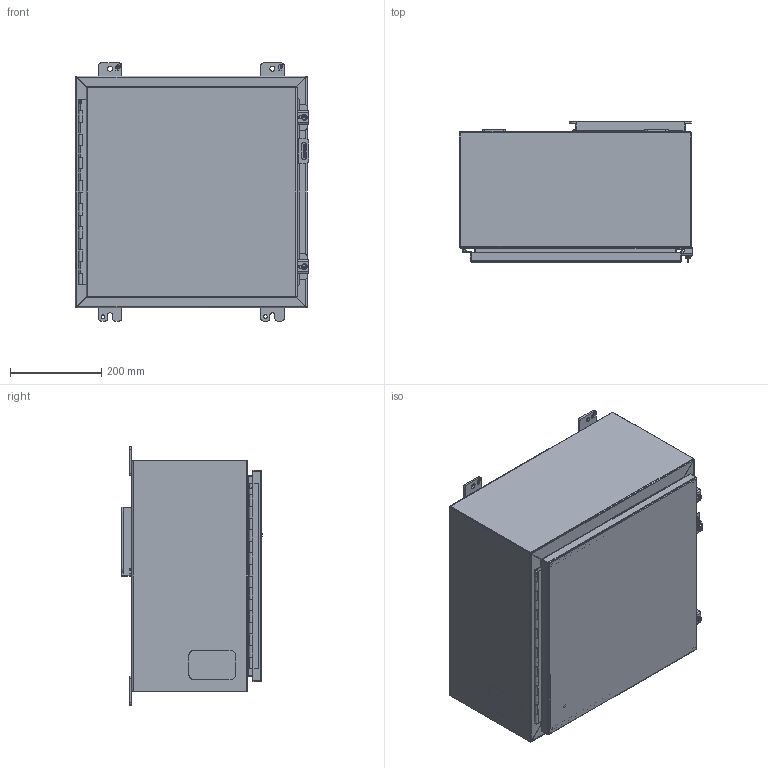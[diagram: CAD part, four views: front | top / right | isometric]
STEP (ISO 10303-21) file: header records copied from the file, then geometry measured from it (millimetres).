
FILE_DESCRIPTION(/* description */ ('Unknown'),/* implementation_level */ '2;1');
FILE_NAME(/* name */ '1418D10LP',/* time_stamp */ '2026-02-20T16:29:38-05:00',/* author */ ('Unknown'),/* organization */ ('Unknown'),/* preprocessor_version */ 'ST-DEVELOPER v18.104',/* originating_system */ 'Solid Edge',/* authorisation */ 'Unknown');
FILE_SCHEMA (('AUTOMOTIVE_DESIGN {1 0 10303 214 3 1 1}'));
Length unit declared in the file: millimetre
Products named in the file (30): 1418D10LP; STD26094; STD21878; COM42780; COM40153-1; COM71780-7; COM40153-2; PNT11078; COM70219_oa_0; HNG10620-16C; COM48472; FET07710; AKT90223; SPR20265; SCC19011; WAF25035; COM42667; HNG10620-16B; BUL10020; QLB30109; PKT99; KIT90518; WAF25059; NTS166105; LAB30005; KIT90256; NTS165305; NTS16535; HNG10620-16P
Assembly tree (40 placements, depth 3):
  1418D10LP
    STD26094  x4
    STD21878
    COM42780  x2
    COM40153-1
    COM71780-7
      COM40153-2
      PNT11078
      COM70219_oa_0
      HNG10620-16C
      COM71780-7
      STD21878
    COM48472
    FET07710  x4
    PNT11078
    AKT90223  x2
      SPR20265
      SCC19011
      WAF25035
      COM42667
    HNG10620-16B
    BUL10020
    QLB30109
    PKT99
    KIT90518
      WAF25059
      NTS166105
      LAB30005
    KIT90256
      LAB30005
      NTS165305
      NTS16535
    HNG10620-16P
Bounding box: 511.18 x 307.98 x 565.15 mm (x, y, z)
Volume: 2409942.2 mm3; surface area: 2574439.6 mm2
Topology: 34 solids, 35 shells, 1157 faces, 2931 edges, 1878 vertices
Faces by surface type: plane 770, cylinder 290, bspline 49, cone 26, torus 20, sphere 2
Full cylindrical faces by diameter (mm): 3.175 x1, 4.763 x1, 4.976 x1, 5.41 x2, 6.198 x2, 6.35 x3, 6.731 x2, 7.137 x2, 7.805 x1, 7.938 x4, 8.382 x4, 9.525 x4, 9.906 x2, 11.113 x4, 11.303 x1, 12.7 x2, 16.51 x4, 25.4 x1, 88.9 x1
Entity records: 28725 total; most frequent: CARTESIAN_POINT 8065, ORIENTED_EDGE 4112, DIRECTION 3887, EDGE_CURVE 2056, LINE 1393, VECTOR 1393, VERTEX_POINT 1321, AXIS2_PLACEMENT_3D 1247
